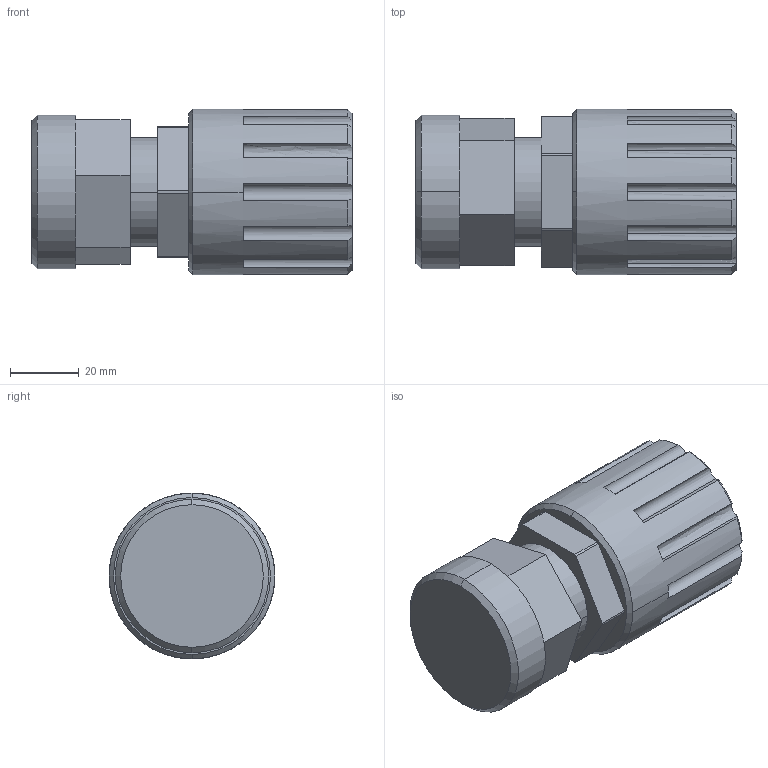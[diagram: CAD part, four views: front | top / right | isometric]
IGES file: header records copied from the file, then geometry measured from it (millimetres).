
Start section: SolidWorks IGES file using analytic representation for surfaces
Global section: file name: S:\Product Visuals\REVISED-60L-TOP-MOUNT-FITTINGS\flaretek\20-flaretek-with-top-mount-adapter.IGS; native system: SolidWorks 2012; preprocessor: SolidWorks 2012; author: rachel.dressel; date: 121127.102613; units: inch
Bounding box: 93.22 x 48.26 x 48.26 mm (x, y, z)
Volume: 132310 mm3; surface area: 20247.6 mm2
Topology: 1 solids, 1 shells, 78 faces, 211 edges, 140 vertices
Faces by surface type: revolution 47, plane 31
